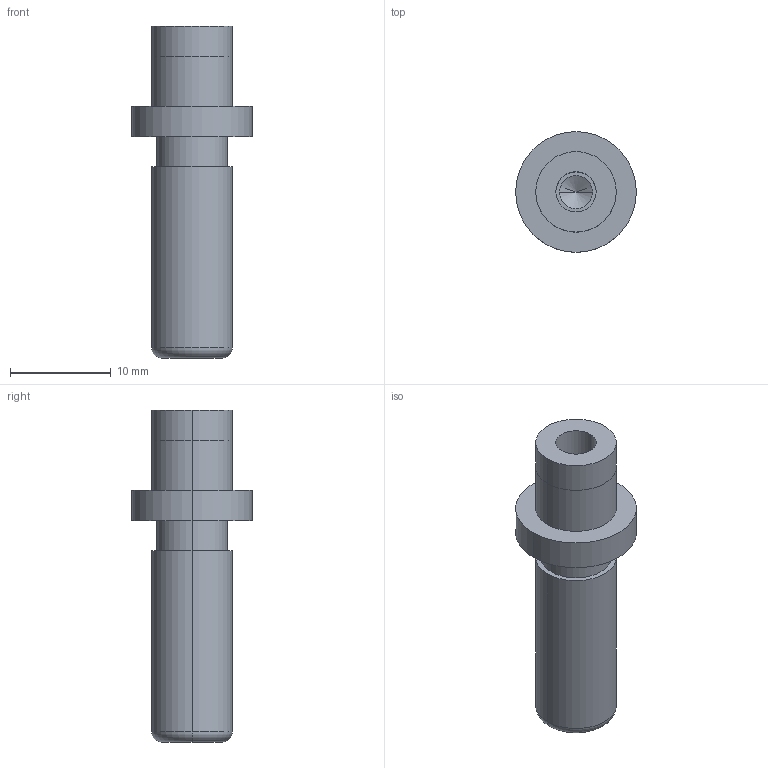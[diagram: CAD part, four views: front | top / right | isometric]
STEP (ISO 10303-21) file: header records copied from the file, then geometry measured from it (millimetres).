
FILE_DESCRIPTION(/* description */ (''),/* implementation_level */ '2;1');
FILE_NAME(/* name */ '3d_sgpw8-25_05245_r00.stp',/* time_stamp */ '2011-01-10T14:11:02+09:00',/* author */ ('MISUMI'),/* organization */ (''),/* preprocessor_version */ 'ST-DEVELOPER v11',/* originating_system */ 'UGS - NX 5.0',/* authorisation */ '');
FILE_SCHEMA (('CONFIG_CONTROL_DESIGN'));
Length unit declared in the file: millimetre
Products named in the file (1): 3d_sgpw8-25_05245_r00
Bounding box: 12 x 12 x 33 mm (x, y, z)
Volume: 1515.8 mm3; surface area: 1391.6 mm2
Topology: 1 solids, 1 shells, 31 faces, 64 edges, 38 vertices
Faces by surface type: cylinder 18, plane 7, cone 4, torus 2
Entity records: 890 total; most frequent: DIRECTION 162, CARTESIAN_POINT 130, ORIENTED_EDGE 120, AXIS2_PLACEMENT_3D 70, EDGE_CURVE 60, EDGE_LOOP 38, CIRCLE 38, VERTEX_POINT 38
